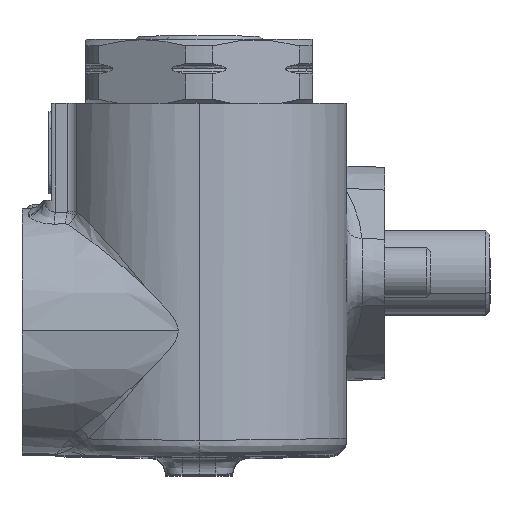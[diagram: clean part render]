
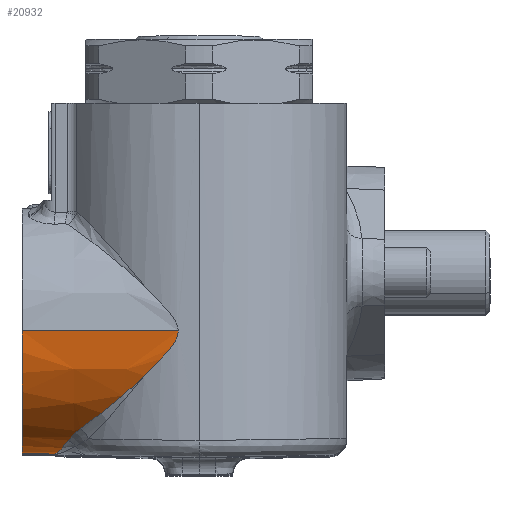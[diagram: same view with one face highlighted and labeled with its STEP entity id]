
A CAD part, top view. The second image highlights one B-rep face of the part: STEP entity #20932.
In plain terms, the highlighted conical face has half-angle 1 degrees and reference radius 14.5 mm.
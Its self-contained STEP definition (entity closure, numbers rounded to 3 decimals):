
#592 = CARTESIAN_POINT ( 'NONE',  ( 1.093, -10.752, 70.803 ) ) ;
#1130 = CARTESIAN_POINT ( 'NONE',  ( -0.474, -12.326, 70.259 ) ) ;
#1169 = CARTESIAN_POINT ( 'NONE',  ( 3.225, -8.108, 71.279 ) ) ;
#1325 = CARTESIAN_POINT ( 'NONE',  ( -17., -21.465, 56.5 ) ) ;
#1331 = CARTESIAN_POINT ( 'NONE',  ( -3.695, -15.195, 68.718 ) ) ;
#1393 = VERTEX_POINT ( 'NONE', #8115 ) ;
#1877 = ORIENTED_EDGE ( 'NONE', *, *, #16771, .T. ) ;
#2087 = VECTOR ( 'NONE', #27620, 1000. ) ;
#2281 = CARTESIAN_POINT ( 'NONE',  ( -15., -7., 56.5 ) ) ;
#2401 = CARTESIAN_POINT ( 'NONE',  ( -11.01, -21.534, 57.672 ) ) ;
#3229 = VERTEX_POINT ( 'NONE', #29463 ) ;
#4015 = EDGE_CURVE ( 'NONE', #23696, #19296, #27732, .T. ) ;
#4136 = CARTESIAN_POINT ( 'NONE',  ( 2.76, -8.831, 71.198 ) ) ;
#4284 = CARTESIAN_POINT ( 'NONE',  ( -6.863, -17.695, 66.523 ) ) ;
#4906 = EDGE_CURVE ( 'NONE', #31139, #21195, #8136, .T. ) ;
#6032 = CARTESIAN_POINT ( 'NONE',  ( -0.474, -12.326, 70.259 ) ) ;
#7963 = CARTESIAN_POINT ( 'NONE',  ( -10.798, -21.398, 58.826 ) ) ;
#8115 = CARTESIAN_POINT ( 'NONE',  ( -9.52, -19.989, 63.157 ) ) ;
#8136 = CIRCLE ( 'NONE', #29992, 14.5 ) ;
#8360 = CARTESIAN_POINT ( 'NONE',  ( -11.103, -21.568, 57.088 ) ) ;
#8447 = CARTESIAN_POINT ( 'NONE',  ( -9.36, -19.768, 63.595 ) ) ;
#8605 = ORIENTED_EDGE ( 'NONE', *, *, #19882, .F. ) ;
#9093 = CARTESIAN_POINT ( 'NONE',  ( -15., -7., 56.5 ) ) ;
#9337 = CARTESIAN_POINT ( 'NONE',  ( -8.055, -18.576, 65.432 ) ) ;
#9481 = DIRECTION ( 'NONE',  ( 1., 0., 0. ) ) ;
#9625 = CARTESIAN_POINT ( 'NONE',  ( -3.048, -14.656, 69.076 ) ) ;
#10964 = DIRECTION ( 'NONE',  ( 0., 0., -1. ) ) ;
#11516 = VECTOR ( 'NONE', #23787, 1000. ) ;
#12404 = EDGE_CURVE ( 'NONE', #31139, #25976, #27528, .T. ) ;
#12796 = FACE_OUTER_BOUND ( 'NONE', #20567, .T. ) ;
#13144 = CARTESIAN_POINT ( 'NONE',  ( 3.08, -8.355, 71.255 ) ) ;
#13332 = CARTESIAN_POINT ( 'NONE',  ( 0.313, -11.549, 70.555 ) ) ;
#13908 = ORIENTED_EDGE ( 'NONE', *, *, #4906, .T. ) ;
#13921 = ORIENTED_EDGE ( 'NONE', *, *, #12404, .F. ) ;
#14003 = CARTESIAN_POINT ( 'NONE',  ( -10.678, -21.297, 59.395 ) ) ;
#14269 = EDGE_CURVE ( 'NONE', #1393, #23696, #37925, .T. ) ;
#14384 = CARTESIAN_POINT ( 'NONE',  ( -9.52, -19.989, 63.157 ) ) ;
#16096 = CARTESIAN_POINT ( 'NONE',  ( -0.08, -11.94, 70.415 ) ) ;
#16450 = CARTESIAN_POINT ( 'NONE',  ( -5.619, -16.739, 67.483 ) ) ;
#16771 = EDGE_CURVE ( 'NONE', #3229, #1393, #35869, .T. ) ;
#16805 = B_SPLINE_CURVE_WITH_KNOTS ( 'NONE', 3,
 ( #34031, #30934, #36781, #1169, #13144, #4136, #19196, #33644, #21764, #24506, #592, #13332, #16096, #31107 ),
 .UNSPECIFIED., .F., .F.,
 ( 4, 2, 2, 2, 2, 2, 4 ),
 ( 0.023, 0.024, 0.025, 0.026, 0.026, 0.028, 0.03 ),
 .UNSPECIFIED. ) ;
#17664 = EDGE_CURVE ( 'NONE', #25976, #19296, #16805, .T. ) ;
#17943 = CARTESIAN_POINT ( 'NONE',  ( -15., -7., 71. ) ) ;
#18607 = CARTESIAN_POINT ( 'NONE',  ( -4.98, -16.236, 67.923 ) ) ;
#19196 = CARTESIAN_POINT ( 'NONE',  ( 2.586, -9.06, 71.165 ) ) ;
#19296 = VERTEX_POINT ( 'NONE', #6032 ) ;
#19882 = EDGE_CURVE ( 'NONE', #3229, #21195, #21904, .T. ) ;
#20567 = EDGE_LOOP ( 'NONE', ( #13921, #13908, #8605, #1877, #27831, #29669, #22671 ) ) ;
#20932 = ADVANCED_FACE ( 'NONE', ( #12796 ), #21280, .T. ) ;
#21195 = VERTEX_POINT ( 'NONE', #36155 ) ;
#21280 = CONICAL_SURFACE ( 'NONE', #31249, 14.5, 0.017 ) ;
#21764 = CARTESIAN_POINT ( 'NONE',  ( 2.043, -9.715, 71.048 ) ) ;
#21904 = LINE ( 'NONE', #1325, #2087 ) ;
#21912 = CARTESIAN_POINT ( 'NONE',  ( -8.055, -18.576, 65.432 ) ) ;
#22671 = ORIENTED_EDGE ( 'NONE', *, *, #17664, .F. ) ;
#22715 = CARTESIAN_POINT ( 'NONE',  ( -15., -7., 71. ) ) ;
#22808 = CARTESIAN_POINT ( 'NONE',  ( -9.704, -20.245, 62.651 ) ) ;
#23256 = DIRECTION ( 'NONE',  ( 1., 0., 0. ) ) ;
#23696 = VERTEX_POINT ( 'NONE', #34863 ) ;
#23787 = DIRECTION ( 'NONE',  ( 1., 0., 0.017 ) ) ;
#24506 = CARTESIAN_POINT ( 'NONE',  ( 1.48, -10.346, 70.91 ) ) ;
#24715 = DIRECTION ( 'NONE',  ( 0., 0., 1. ) ) ;
#25542 = CARTESIAN_POINT ( 'NONE',  ( -10.396, -21.028, 60.517 ) ) ;
#25976 = VERTEX_POINT ( 'NONE', #28775 ) ;
#27174 = CARTESIAN_POINT ( 'NONE',  ( -8.672, -19.06, 64.76 ) ) ;
#27528 = LINE ( 'NONE', #17943, #11516 ) ;
#27620 = DIRECTION ( 'NONE',  ( -1., 0.017, 0. ) ) ;
#27732 = B_SPLINE_CURVE_WITH_KNOTS ( 'NONE', 3,
 ( #21912, #31075, #4284, #16450, #18607, #1331, #9625, #36947, #27817, #1130 ),
 .UNSPECIFIED., .F., .F.,
 ( 4, 2, 2, 2, 4 ),
 ( 0., 0.003, 0.006, 0.008, 0.011 ),
 .UNSPECIFIED. ) ;
#27817 = CARTESIAN_POINT ( 'NONE',  ( -1.107, -12.947, 70.006 ) ) ;
#27831 = ORIENTED_EDGE ( 'NONE', *, *, #14269, .T. ) ;
#28687 = CARTESIAN_POINT ( 'NONE',  ( -10.236, -20.861, 61.068 ) ) ;
#28775 = CARTESIAN_POINT ( 'NONE',  ( 3.519, -7., 71.323 ) ) ;
#29463 = CARTESIAN_POINT ( 'NONE',  ( -11.198, -21.566, 56.5 ) ) ;
#29669 = ORIENTED_EDGE ( 'NONE', *, *, #4015, .T. ) ;
#29992 = AXIS2_PLACEMENT_3D ( 'NONE', #2281, #23256, #10964 ) ;
#30275 = CARTESIAN_POINT ( 'NONE',  ( -9.52, -19.989, 63.157 ) ) ;
#30934 = CARTESIAN_POINT ( 'NONE',  ( 3.519, -7.29, 71.323 ) ) ;
#31075 = CARTESIAN_POINT ( 'NONE',  ( -7.469, -18.149, 66.002 ) ) ;
#31107 = CARTESIAN_POINT ( 'NONE',  ( -0.474, -12.326, 70.259 ) ) ;
#31139 = VERTEX_POINT ( 'NONE', #22715 ) ;
#31249 = AXIS2_PLACEMENT_3D ( 'NONE', #9093, #9481, #24715 ) ;
#31972 = CARTESIAN_POINT ( 'NONE',  ( -9.89, -20.47, 62.134 ) ) ;
#33644 = CARTESIAN_POINT ( 'NONE',  ( 2.228, -9.501, 71.09 ) ) ;
#34031 = CARTESIAN_POINT ( 'NONE',  ( 3.519, -7., 71.323 ) ) ;
#34863 = CARTESIAN_POINT ( 'NONE',  ( -8.055, -18.576, 65.432 ) ) ;
#35080 = CARTESIAN_POINT ( 'NONE',  ( -11.198, -21.566, 56.5 ) ) ;
#35869 = B_SPLINE_CURVE_WITH_KNOTS ( 'NONE', 3,
 ( #35080, #8360, #2401, #7963, #14003, #25542, #28687, #31972, #22808, #14384 ),
 .UNSPECIFIED., .F., .F.,
 ( 4, 2, 2, 2, 4 ),
 ( 0., 0.002, 0.004, 0.005, 0.007 ),
 .UNSPECIFIED. ) ;
#36073 = CARTESIAN_POINT ( 'NONE',  ( -9.159, -19.535, 64.002 ) ) ;
#36155 = CARTESIAN_POINT ( 'NONE',  ( -15., -21.5, 56.5 ) ) ;
#36781 = CARTESIAN_POINT ( 'NONE',  ( 3.448, -7.576, 71.313 ) ) ;
#36947 = CARTESIAN_POINT ( 'NONE',  ( -1.754, -13.532, 69.72 ) ) ;
#37917 = CARTESIAN_POINT ( 'NONE',  ( -8.383, -18.815, 65.113 ) ) ;
#37925 = B_SPLINE_CURVE_WITH_KNOTS ( 'NONE', 3,
 ( #30275, #8447, #36073, #27174, #37917, #9337 ),
 .UNSPECIFIED., .F., .F.,
 ( 4, 2, 4 ),
 ( 0., 0.002, 0.003 ),
 .UNSPECIFIED. ) ;
